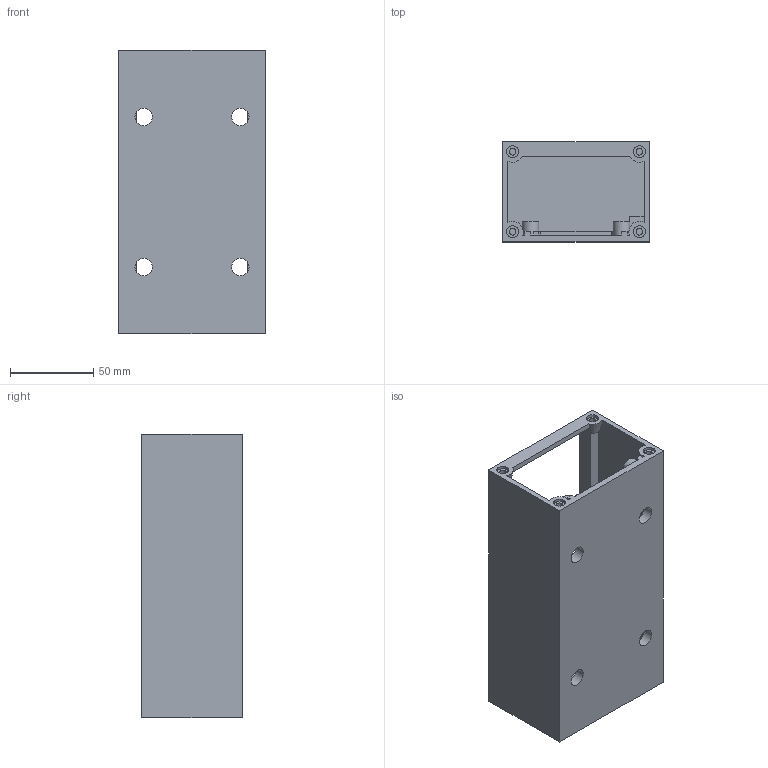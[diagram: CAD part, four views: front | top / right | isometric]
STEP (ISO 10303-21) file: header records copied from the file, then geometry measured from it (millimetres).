
FILE_DESCRIPTION(('FreeCAD Model'),'2;1');
FILE_NAME('Open CASCADE Shape Model','2026-09-11T23:31:11',('FreeCAD'),( 'FreeCAD'),'Open CASCADE STEP processor 7.8','FreeCAD','Unknown');
FILE_SCHEMA(('AUTOMOTIVE_DESIGN { 1 0 10303 214 1 1 1 1 }'));
Length unit declared in the file: millimetre
Products named in the file (1): Open CASCADE STEP translator 7.8 2
Bounding box: 88 x 60 x 169.8 mm (x, y, z)
Volume: 173447.4 mm3; surface area: 92918.2 mm2
Topology: 1 solids, 1 shells, 199 faces, 538 edges, 360 vertices
Faces by surface type: plane 149, cylinder 44, cone 6
Full cylindrical faces by diameter (mm): 4 x16, 7.2 x4, 10 x4, 10.4 x4
Entity records: 6313 total; most frequent: CARTESIAN_POINT 1098, DIRECTION 1093, ORIENTED_EDGE 1076, EDGE_CURVE 538, LINE 383, VECTOR 383, VERTEX_POINT 360, AXIS2_PLACEMENT_3D 355
